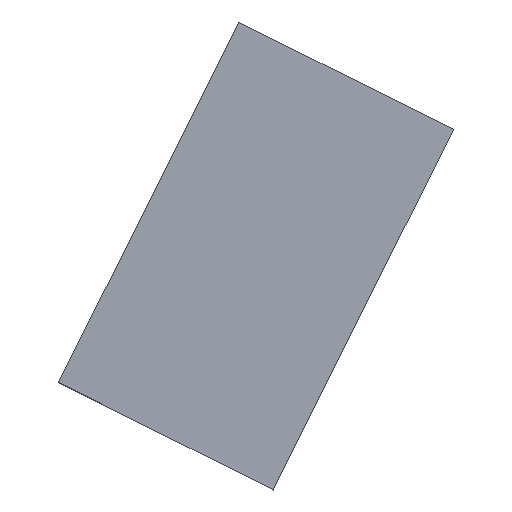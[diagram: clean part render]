
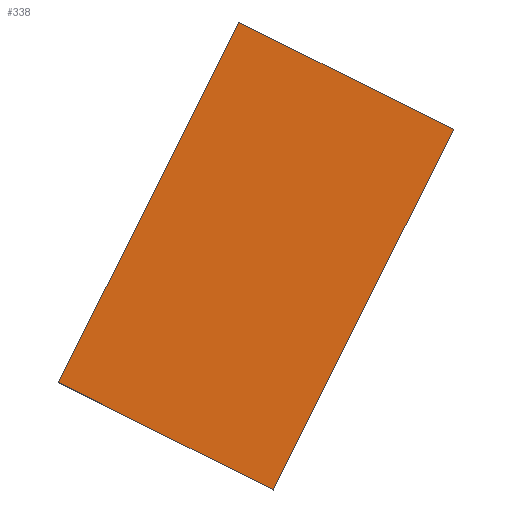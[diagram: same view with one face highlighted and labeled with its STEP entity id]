
A CAD part, top view. The second image highlights one B-rep face of the part: STEP entity #338.
In plain terms, the highlighted planar face has unit normal (0, 0, 1).
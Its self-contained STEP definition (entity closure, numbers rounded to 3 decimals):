
#24 = VERTEX_POINT('',#25);
#25 = CARTESIAN_POINT('',(-337.811,-135.736,152.));
#32 = PLANE('',#33);
#33 = AXIS2_PLACEMENT_3D('',#34,#35,#36);
#34 = CARTESIAN_POINT('',(-337.811,-135.736,144.));
#35 = DIRECTION('',(0.894,-0.447,0.));
#36 = DIRECTION('',(-0.447,-0.894,0.));
#44 = PLANE('',#45);
#45 = AXIS2_PLACEMENT_3D('',#46,#47,#48);
#46 = CARTESIAN_POINT('',(-359.277,-125.003,144.));
#47 = DIRECTION('',(0.447,0.894,-0.));
#48 = DIRECTION('',(0.894,-0.447,0.));
#56 = EDGE_CURVE('',#24,#57,#59,.T.);
#57 = VERTEX_POINT('',#58);
#58 = CARTESIAN_POINT('',(-355.811,-171.736,152.));
#59 = SURFACE_CURVE('',#60,(#64,#71),.PCURVE_S1.);
#60 = LINE('',#61,#62);
#61 = CARTESIAN_POINT('',(-337.811,-135.736,152.));
#62 = VECTOR('',#63,1.);
#63 = DIRECTION('',(-0.447,-0.894,0.));
#64 = PCURVE('',#32,#65);
#65 = DEFINITIONAL_REPRESENTATION('',(#66),#70);
#66 = LINE('',#67,#68);
#67 = CARTESIAN_POINT('',(0.,-8.));
#68 = VECTOR('',#69,1.);
#69 = DIRECTION('',(1.,0.));
#70 = ( GEOMETRIC_REPRESENTATION_CONTEXT(2) 
PARAMETRIC_REPRESENTATION_CONTEXT() REPRESENTATION_CONTEXT('2D SPACE',''
  ) );
#71 = PCURVE('',#72,#77);
#72 = PLANE('',#73);
#73 = AXIS2_PLACEMENT_3D('',#74,#75,#76);
#74 = CARTESIAN_POINT('',(-357.544,-148.369,152.));
#75 = DIRECTION('',(-0.,-0.,-1.));
#76 = DIRECTION('',(-1.,0.,0.));
#77 = DEFINITIONAL_REPRESENTATION('',(#78),#82);
#78 = LINE('',#79,#80);
#79 = CARTESIAN_POINT('',(-19.733,12.633));
#80 = VECTOR('',#81,1.);
#81 = DIRECTION('',(0.447,-0.894));
#82 = ( GEOMETRIC_REPRESENTATION_CONTEXT(2) 
PARAMETRIC_REPRESENTATION_CONTEXT() REPRESENTATION_CONTEXT('2D SPACE',''
  ) );
#100 = PLANE('',#101);
#101 = AXIS2_PLACEMENT_3D('',#102,#103,#104);
#102 = CARTESIAN_POINT('',(-355.811,-171.736,144.));
#103 = DIRECTION('',(-0.447,-0.894,0.));
#104 = DIRECTION('',(-0.894,0.447,0.));
#142 = EDGE_CURVE('',#57,#143,#145,.T.);
#143 = VERTEX_POINT('',#144);
#144 = CARTESIAN_POINT('',(-377.277,-161.003,152.));
#145 = SURFACE_CURVE('',#146,(#150,#157),.PCURVE_S1.);
#146 = LINE('',#147,#148);
#147 = CARTESIAN_POINT('',(-355.811,-171.736,152.));
#148 = VECTOR('',#149,1.);
#149 = DIRECTION('',(-0.894,0.447,0.));
#150 = PCURVE('',#100,#151);
#151 = DEFINITIONAL_REPRESENTATION('',(#152),#156);
#152 = LINE('',#153,#154);
#153 = CARTESIAN_POINT('',(0.,-8.));
#154 = VECTOR('',#155,1.);
#155 = DIRECTION('',(1.,0.));
#156 = ( GEOMETRIC_REPRESENTATION_CONTEXT(2) 
PARAMETRIC_REPRESENTATION_CONTEXT() REPRESENTATION_CONTEXT('2D SPACE',''
  ) );
#157 = PCURVE('',#72,#158);
#158 = DEFINITIONAL_REPRESENTATION('',(#159),#163);
#159 = LINE('',#160,#161);
#160 = CARTESIAN_POINT('',(-1.733,-23.367));
#161 = VECTOR('',#162,1.);
#162 = DIRECTION('',(0.894,0.447));
#163 = ( GEOMETRIC_REPRESENTATION_CONTEXT(2) 
PARAMETRIC_REPRESENTATION_CONTEXT() REPRESENTATION_CONTEXT('2D SPACE',''
  ) );
#181 = PLANE('',#182);
#182 = AXIS2_PLACEMENT_3D('',#183,#184,#185);
#183 = CARTESIAN_POINT('',(-377.277,-161.003,144.));
#184 = DIRECTION('',(-0.894,0.447,0.));
#185 = DIRECTION('',(0.447,0.894,0.));
#218 = EDGE_CURVE('',#143,#219,#221,.T.);
#219 = VERTEX_POINT('',#220);
#220 = CARTESIAN_POINT('',(-359.277,-125.003,152.));
#221 = SURFACE_CURVE('',#222,(#226,#233),.PCURVE_S1.);
#222 = LINE('',#223,#224);
#223 = CARTESIAN_POINT('',(-377.277,-161.003,152.));
#224 = VECTOR('',#225,1.);
#225 = DIRECTION('',(0.447,0.894,0.));
#226 = PCURVE('',#181,#227);
#227 = DEFINITIONAL_REPRESENTATION('',(#228),#232);
#228 = LINE('',#229,#230);
#229 = CARTESIAN_POINT('',(0.,-8.));
#230 = VECTOR('',#231,1.);
#231 = DIRECTION('',(1.,0.));
#232 = ( GEOMETRIC_REPRESENTATION_CONTEXT(2) 
PARAMETRIC_REPRESENTATION_CONTEXT() REPRESENTATION_CONTEXT('2D SPACE',''
  ) );
#233 = PCURVE('',#72,#234);
#234 = DEFINITIONAL_REPRESENTATION('',(#235),#239);
#235 = LINE('',#236,#237);
#236 = CARTESIAN_POINT('',(19.733,-12.633));
#237 = VECTOR('',#238,1.);
#238 = DIRECTION('',(-0.447,0.894));
#239 = ( GEOMETRIC_REPRESENTATION_CONTEXT(2) 
PARAMETRIC_REPRESENTATION_CONTEXT() REPRESENTATION_CONTEXT('2D SPACE',''
  ) );
#289 = EDGE_CURVE('',#219,#24,#290,.T.);
#290 = SURFACE_CURVE('',#291,(#295,#302),.PCURVE_S1.);
#291 = LINE('',#292,#293);
#292 = CARTESIAN_POINT('',(-359.277,-125.003,152.));
#293 = VECTOR('',#294,1.);
#294 = DIRECTION('',(0.894,-0.447,0.));
#295 = PCURVE('',#44,#296);
#296 = DEFINITIONAL_REPRESENTATION('',(#297),#301);
#297 = LINE('',#298,#299);
#298 = CARTESIAN_POINT('',(0.,-8.));
#299 = VECTOR('',#300,1.);
#300 = DIRECTION('',(1.,0.));
#301 = ( GEOMETRIC_REPRESENTATION_CONTEXT(2) 
PARAMETRIC_REPRESENTATION_CONTEXT() REPRESENTATION_CONTEXT('2D SPACE',''
  ) );
#302 = PCURVE('',#72,#303);
#303 = DEFINITIONAL_REPRESENTATION('',(#304),#308);
#304 = LINE('',#305,#306);
#305 = CARTESIAN_POINT('',(1.733,23.367));
#306 = VECTOR('',#307,1.);
#307 = DIRECTION('',(-0.894,-0.447));
#308 = ( GEOMETRIC_REPRESENTATION_CONTEXT(2) 
PARAMETRIC_REPRESENTATION_CONTEXT() REPRESENTATION_CONTEXT('2D SPACE',''
  ) );
#338 = ADVANCED_FACE('',(#339),#72,.F.);
#339 = FACE_BOUND('',#340,.F.);
#340 = EDGE_LOOP('',(#341,#342,#343,#344));
#341 = ORIENTED_EDGE('',*,*,#56,.T.);
#342 = ORIENTED_EDGE('',*,*,#142,.T.);
#343 = ORIENTED_EDGE('',*,*,#218,.T.);
#344 = ORIENTED_EDGE('',*,*,#289,.T.);
